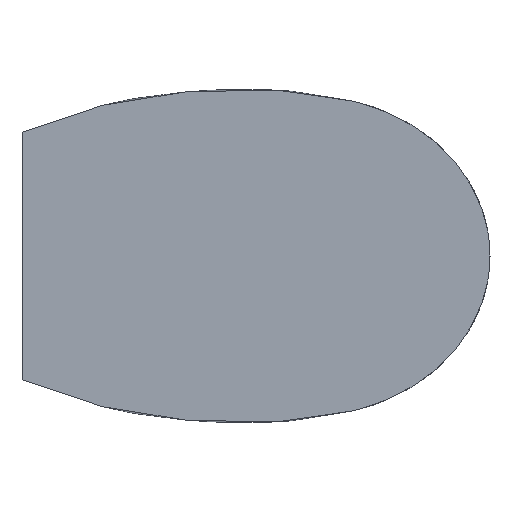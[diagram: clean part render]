
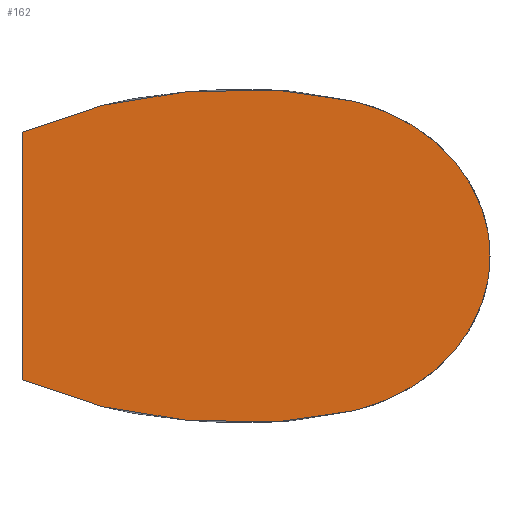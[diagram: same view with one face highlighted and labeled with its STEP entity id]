
A CAD part, left-side view. The second image highlights one B-rep face of the part: STEP entity #162.
In plain terms, the highlighted planar face has unit normal (-1, 0, 0).
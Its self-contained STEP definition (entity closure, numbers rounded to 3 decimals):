
#2=DIRECTION('',(0.,0.,-1.));
#3=VECTOR('',#2,1.604);
#4=CARTESIAN_POINT('',(-9.,-0.3,0.802));
#5=LINE('',#4,#3);
#10=CARTESIAN_POINT('',(-9.,-0.3,0.802));
#11=CARTESIAN_POINT('',(-9.,-0.418,0.852));
#12=CARTESIAN_POINT('',(-9.,-0.655,0.938));
#13=CARTESIAN_POINT('',(-9.,-0.959,1.011));
#14=CARTESIAN_POINT('',(-9.,-1.209,1.049));
#15=CARTESIAN_POINT('',(-9.,-1.369,1.065));
#16=CARTESIAN_POINT('',(-9.,-1.499,1.071));
#17=CARTESIAN_POINT('',(-9.,-1.631,1.08));
#18=CARTESIAN_POINT('',(-9.,-1.811,1.082));
#19=CARTESIAN_POINT('',(-9.,-2.046,1.07));
#20=CARTESIAN_POINT('',(-9.,-2.299,1.037));
#21=CARTESIAN_POINT('',(-9.,-2.555,0.981));
#22=CARTESIAN_POINT('',(-9.,-2.799,0.873));
#23=CARTESIAN_POINT('',(-9.,-3.016,0.715));
#24=CARTESIAN_POINT('',(-9.,-3.191,0.508));
#25=CARTESIAN_POINT('',(-9.,-3.304,0.263));
#26=CARTESIAN_POINT('',(-9.,-3.329,0.087));
#27=CARTESIAN_POINT('',(-9.,-3.329,0.));
#29=CARTESIAN_POINT('',(-9.,-0.3,-0.802));
#30=CARTESIAN_POINT('',(-9.,-0.418,-0.852));
#31=CARTESIAN_POINT('',(-9.,-0.655,-0.938));
#32=CARTESIAN_POINT('',(-9.,-0.959,-1.011));
#33=CARTESIAN_POINT('',(-9.,-1.209,-1.049));
#34=CARTESIAN_POINT('',(-9.,-1.369,-1.065));
#35=CARTESIAN_POINT('',(-9.,-1.499,-1.071));
#36=CARTESIAN_POINT('',(-9.,-1.631,-1.08));
#37=CARTESIAN_POINT('',(-9.,-1.811,-1.082));
#38=CARTESIAN_POINT('',(-9.,-2.046,-1.07));
#39=CARTESIAN_POINT('',(-9.,-2.299,-1.037));
#40=CARTESIAN_POINT('',(-9.,-2.555,-0.981));
#41=CARTESIAN_POINT('',(-9.,-2.799,-0.873));
#42=CARTESIAN_POINT('',(-9.,-3.016,-0.715));
#43=CARTESIAN_POINT('',(-9.,-3.191,-0.508));
#44=CARTESIAN_POINT('',(-9.,-3.304,-0.263));
#45=CARTESIAN_POINT('',(-9.,-3.329,-0.087));
#46=CARTESIAN_POINT('',(-9.,-3.329,0.));
#127=CARTESIAN_POINT('',(-9.,-0.3,0.802));
#128=CARTESIAN_POINT('',(-9.,-0.3,-0.802));
#129=VERTEX_POINT('',#127);
#130=VERTEX_POINT('',#128);
#131=VERTEX_POINT('',#27);
#150=CARTESIAN_POINT('',(-9.,0.,0.));
#151=DIRECTION('',(1.,0.,0.));
#152=DIRECTION('',(0.,0.,-1.));
#153=AXIS2_PLACEMENT_3D('',#150,#151,#152);
#154=PLANE('',#153);
#155=ORIENTED_EDGE('',*,*,#137,.F.);
#157=ORIENTED_EDGE('',*,*,#156,.T.);
#159=ORIENTED_EDGE('',*,*,#158,.F.);
#160=EDGE_LOOP('',(#155,#157,#159));
#161=FACE_OUTER_BOUND('',#160,.F.);
#162=ADVANCED_FACE('',(#161),#154,.F.);
#28=B_SPLINE_CURVE_WITH_KNOTS('',3,(#10,#11,#12,#13,#14,#15,#16,#17,#18,#19,#20,
#21,#22,#23,#24,#25,#26,#27),.UNSPECIFIED.,.F.,.F.,(4,1,1,1,1,1,1,1,1,1,1,1,1,1,
1,4),(0.,0.115,0.229,0.286,
0.344,0.372,0.401,0.458,
0.526,0.594,0.661,0.729,
0.797,0.865,0.932,1.),.UNSPECIFIED.);
#47=B_SPLINE_CURVE_WITH_KNOTS('',3,(#29,#30,#31,#32,#33,#34,#35,#36,#37,#38,#39,
#40,#41,#42,#43,#44,#45,#46),.UNSPECIFIED.,.F.,.F.,(4,1,1,1,1,1,1,1,1,1,1,1,1,1,
1,4),(0.,0.115,0.229,0.286,
0.344,0.372,0.401,0.458,
0.526,0.594,0.661,0.729,
0.797,0.865,0.932,1.),.UNSPECIFIED.);
#137=EDGE_CURVE('',#129,#130,#5,.T.);
#156=EDGE_CURVE('',#129,#131,#28,.T.);
#158=EDGE_CURVE('',#130,#131,#47,.T.);
